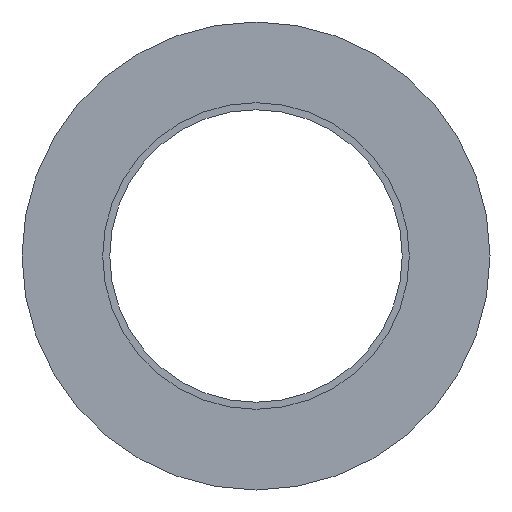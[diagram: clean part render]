
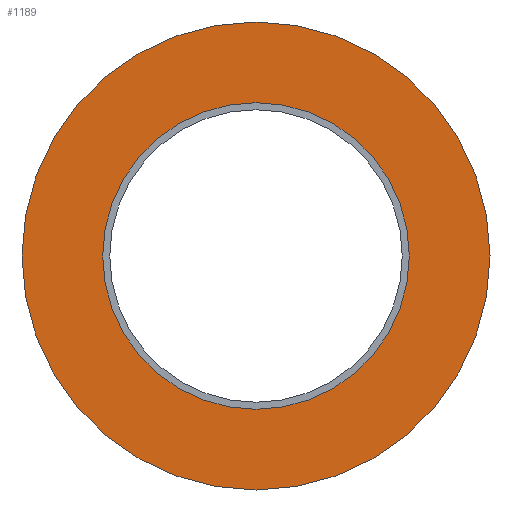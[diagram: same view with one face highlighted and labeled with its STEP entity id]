
A CAD part, left-side view. The second image highlights one B-rep face of the part: STEP entity #1189.
In plain terms, the highlighted planar face has unit normal (-1, 0, 0).
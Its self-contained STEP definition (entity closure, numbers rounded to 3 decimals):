
#401=CARTESIAN_POINT('',(0.,0.,0.));
#402=DIRECTION('',(1.,0.,0.));
#403=DIRECTION('',(0.,0.,1.));
#404=AXIS2_PLACEMENT_3D('',#401,#402,#403);
#409=CARTESIAN_POINT('',(0.,0.,0.));
#410=DIRECTION('',(1.,0.,0.));
#411=DIRECTION('',(0.,0.,-1.));
#412=AXIS2_PLACEMENT_3D('',#409,#410,#411);
#470=CARTESIAN_POINT('',(0.,0.,0.));
#471=DIRECTION('',(1.,0.,0.));
#472=DIRECTION('',(0.,0.,-1.));
#473=AXIS2_PLACEMENT_3D('',#470,#471,#472);
#501=CARTESIAN_POINT('',(0.,0.,0.));
#502=DIRECTION('',(1.,0.,0.));
#503=DIRECTION('',(0.,0.,1.));
#504=AXIS2_PLACEMENT_3D('',#501,#502,#503);
#807=CARTESIAN_POINT('',(0.,0.,20.));
#808=VERTEX_POINT('',#807);
#809=CARTESIAN_POINT('',(0.,0.,-20.));
#810=VERTEX_POINT('',#809);
#812=CARTESIAN_POINT('',(0.,0.,-13.1));
#814=VERTEX_POINT('',#812);
#815=CARTESIAN_POINT('',(0.,0.,13.1));
#817=VERTEX_POINT('',#815);
#1173=CARTESIAN_POINT('',(0.,0.,0.));
#1174=DIRECTION('',(1.,0.,0.));
#1175=DIRECTION('',(0.,0.,1.));
#1176=AXIS2_PLACEMENT_3D('',#1173,#1174,#1175);
#1177=PLANE('',#1176);
#1179=ORIENTED_EDGE('',*,*,#1178,.T.);
#1180=ORIENTED_EDGE('',*,*,#1163,.T.);
#1181=EDGE_LOOP('',(#1179,#1180));
#1182=FACE_OUTER_BOUND('',#1181,.F.);
#1184=ORIENTED_EDGE('',*,*,#1183,.F.);
#1186=ORIENTED_EDGE('',*,*,#1185,.F.);
#1187=EDGE_LOOP('',(#1184,#1186));
#1188=FACE_BOUND('',#1187,.F.);
#405=CIRCLE('',#404,20.);
#413=CIRCLE('',#412,20.);
#474=CIRCLE('',#473,13.1);
#505=CIRCLE('',#504,13.1);
#1163=EDGE_CURVE('',#810,#808,#413,.T.);
#1178=EDGE_CURVE('',#808,#810,#405,.T.);
#1183=EDGE_CURVE('',#814,#817,#474,.T.);
#1185=EDGE_CURVE('',#817,#814,#505,.T.);
#1189=ADVANCED_FACE('',(#1182,#1188),#1177,.F.);
